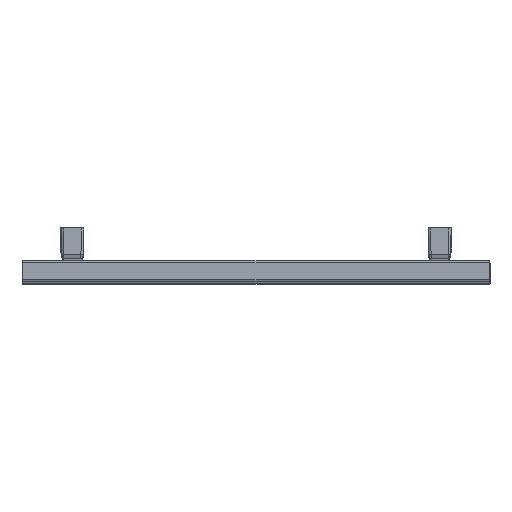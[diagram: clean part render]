
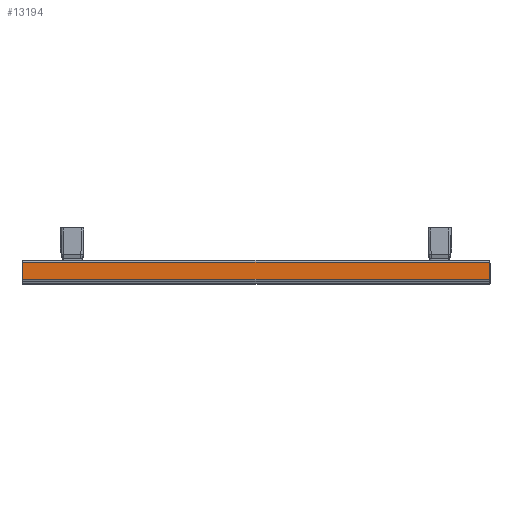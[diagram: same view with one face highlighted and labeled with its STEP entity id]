
A CAD part, top view. The second image highlights one B-rep face of the part: STEP entity #13194.
In plain terms, the highlighted planar face has unit normal (0, 0, 1).
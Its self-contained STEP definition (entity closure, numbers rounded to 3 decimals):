
#12429=CARTESIAN_POINT('',(-204.,-12.,1900.));
#12430=VERTEX_POINT('',#12429);
#12497=CARTESIAN_POINT('',(-204.,12.,1900.));
#12498=VERTEX_POINT('',#12497);
#12515=CARTESIAN_POINT('',(-204.,-12.,1900.));
#12516=DIRECTION('',(0.0,1.0,0.0));
#12517=VECTOR('',#12516,24.);
#12518=LINE('',#12515,#12517);
#12519=EDGE_CURVE('',#12430,#12498,#12518,.T.);
#12669=CARTESIAN_POINT('',(444.,12.,1900.));
#12670=VERTEX_POINT('',#12669);
#12678=CARTESIAN_POINT('',(444.0,-12.,1900.));
#12679=VERTEX_POINT('',#12678);
#12680=CARTESIAN_POINT('',(444.0,12.,1900.));
#12681=DIRECTION('',(0.0,-1.0,0.0));
#12682=VECTOR('',#12681,24.0);
#12683=LINE('',#12680,#12682);
#12684=EDGE_CURVE('',#12670,#12679,#12683,.T.);
#13166=CARTESIAN_POINT('',(444.,-12.,1900.));
#13167=DIRECTION('',(-1.0,0.0,0.0));
#13168=VECTOR('',#13167,648.0);
#13169=LINE('',#13166,#13168);
#13170=EDGE_CURVE('',#12679,#12430,#13169,.T.);
#13178=CARTESIAN_POINT('',(120.,-12.,1900.));
#13179=DIRECTION('',(0.0,0.0,1.0));
#13180=DIRECTION('',(-1.0,0.0,0.0));
#13181=AXIS2_PLACEMENT_3D('',#13178,#13179,#13180);
#13182=PLANE('',#13181);
#13183=CARTESIAN_POINT('',(444.,12.,1900.));
#13184=DIRECTION('',(-1.0,0.0,0.0));
#13185=VECTOR('',#13184,648.0);
#13186=LINE('',#13183,#13185);
#13187=EDGE_CURVE('',#12670,#12498,#13186,.T.);
#13188=ORIENTED_EDGE('',*,*,#13187,.T.);
#13189=ORIENTED_EDGE('',*,*,#12519,.F.);
#13190=ORIENTED_EDGE('',*,*,#13170,.F.);
#13191=ORIENTED_EDGE('',*,*,#12684,.F.);
#13192=EDGE_LOOP('',(#13188,#13189,#13190,#13191));
#13193=FACE_OUTER_BOUND('',#13192,.T.);
#13194=ADVANCED_FACE('',(#13193),#13182,.T.);
